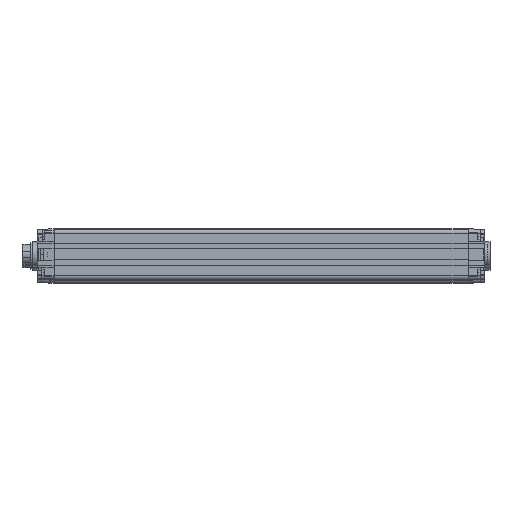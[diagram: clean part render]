
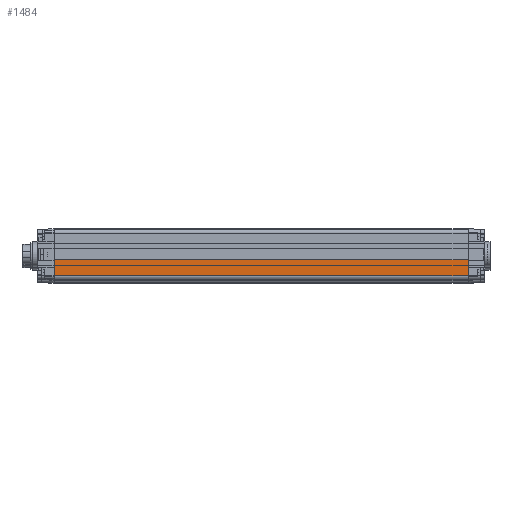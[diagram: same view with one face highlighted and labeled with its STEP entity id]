
A CAD part, top view. The second image highlights one B-rep face of the part: STEP entity #1484.
In plain terms, the highlighted planar face has unit normal (0, 0, 1).
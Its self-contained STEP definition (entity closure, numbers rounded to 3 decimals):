
#1484=ADVANCED_FACE('',(#2024),#11281,.T.);
#2024=FACE_OUTER_BOUND('',#2543,.T.);
#2543=EDGE_LOOP('',(#5810,#5811,#5812,#5813));
#3116=LINE('',#15605,#4289);
#3214=LINE('',#15821,#4387);
#3300=LINE('',#16001,#4473);
#3301=LINE('',#16002,#4474);
#4289=VECTOR('',#12581,1.);
#4387=VECTOR('',#12715,1.);
#4473=VECTOR('',#12901,1.);
#4474=VECTOR('',#12902,1.);
#5810=ORIENTED_EDGE('',*,*,#9577,.F.);
#5811=ORIENTED_EDGE('',*,*,#9669,.T.);
#5812=ORIENTED_EDGE('',*,*,#9468,.T.);
#5813=ORIENTED_EDGE('',*,*,#9670,.F.);
#8475=VERTEX_POINT('',#15604);
#8476=VERTEX_POINT('',#15606);
#8575=VERTEX_POINT('',#15820);
#8576=VERTEX_POINT('',#15822);
#9468=EDGE_CURVE('',#8476,#8475,#3116,.T.);
#9577=EDGE_CURVE('',#8575,#8576,#3214,.T.);
#9669=EDGE_CURVE('',#8575,#8476,#3300,.T.);
#9670=EDGE_CURVE('',#8576,#8475,#3301,.T.);
#11281=PLANE('',#11723);
#11723=AXIS2_PLACEMENT_3D('',#16003,#12903,#12904);
#12581=DIRECTION('',(0.,-1.,0.));
#12715=DIRECTION('',(0.,-1.,0.));
#12901=DIRECTION('',(-1.,0.,0.));
#12902=DIRECTION('',(-1.,0.,0.));
#12903=DIRECTION('',(0.,0.,1.));
#12904=DIRECTION('',(0.,-1.,0.));
#15604=CARTESIAN_POINT('',(0.,-12.65,15.65));
#15605=CARTESIAN_POINT('',(0.,-3.25,15.65));
#15606=CARTESIAN_POINT('',(0.,-3.25,15.65));
#15820=CARTESIAN_POINT('',(245.,-3.25,15.65));
#15821=CARTESIAN_POINT('',(245.,-3.25,15.65));
#15822=CARTESIAN_POINT('',(245.,-12.65,15.65));
#16001=CARTESIAN_POINT('',(1020.,-3.25,15.65));
#16002=CARTESIAN_POINT('',(1020.,-12.65,15.65));
#16003=CARTESIAN_POINT('',(0.,15.15,15.65));
